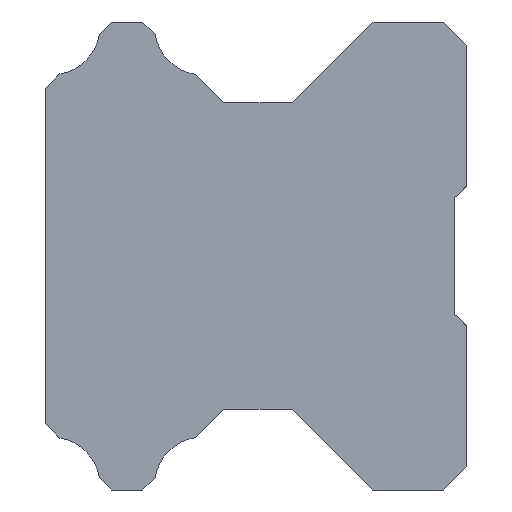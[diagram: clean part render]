
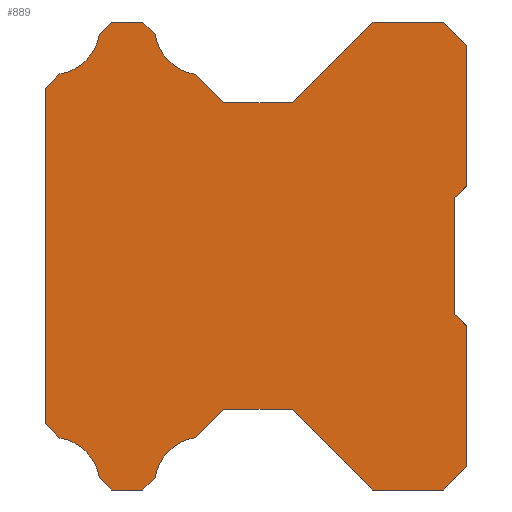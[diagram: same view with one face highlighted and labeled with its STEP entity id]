
A CAD part, left-side view. The second image highlights one B-rep face of the part: STEP entity #889.
In plain terms, the highlighted planar face has unit normal (-1, 0, 0).
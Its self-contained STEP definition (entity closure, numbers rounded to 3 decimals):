
#36=CIRCLE('',#953,2.06);
#38=CIRCLE('',#959,2.06);
#43=CIRCLE('',#968,2.06);
#45=CIRCLE('',#974,2.06);
#68=LINE('',#1313,#156);
#70=LINE('',#1319,#158);
#72=LINE('',#1324,#160);
#74=LINE('',#1328,#162);
#78=LINE('',#1337,#166);
#81=LINE('',#1343,#169);
#84=LINE('',#1349,#172);
#87=LINE('',#1355,#175);
#90=LINE('',#1361,#178);
#93=LINE('',#1367,#181);
#96=LINE('',#1373,#184);
#99=LINE('',#1379,#187);
#102=LINE('',#1385,#190);
#106=LINE('',#1397,#194);
#109=LINE('',#1403,#197);
#112=LINE('',#1409,#200);
#116=LINE('',#1421,#204);
#119=LINE('',#1433,#207);
#122=LINE('',#1439,#210);
#126=LINE('',#1451,#214);
#129=LINE('',#1457,#217);
#132=LINE('',#1463,#220);
#136=LINE('',#1475,#224);
#139=LINE('',#1481,#227);
#156=VECTOR('',#1060,1000.);
#158=VECTOR('',#1066,1000.);
#160=VECTOR('',#1072,1000.);
#162=VECTOR('',#1076,1000.);
#166=VECTOR('',#1082,1000.);
#169=VECTOR('',#1087,1000.);
#172=VECTOR('',#1092,1000.);
#175=VECTOR('',#1101,1000.);
#178=VECTOR('',#1106,1000.);
#181=VECTOR('',#1111,1000.);
#184=VECTOR('',#1116,1000.);
#187=VECTOR('',#1121,1000.);
#190=VECTOR('',#1126,1000.);
#194=VECTOR('',#1138,1000.);
#197=VECTOR('',#1143,1000.);
#200=VECTOR('',#1148,1000.);
#204=VECTOR('',#1160,1000.);
#207=VECTOR('',#1171,1000.);
#210=VECTOR('',#1176,1000.);
#214=VECTOR('',#1188,1000.);
#217=VECTOR('',#1193,1000.);
#220=VECTOR('',#1198,1000.);
#224=VECTOR('',#1210,1000.);
#227=VECTOR('',#1215,1000.);
#414=ORIENTED_EDGE('',*,*,#513,.F.);
#415=ORIENTED_EDGE('',*,*,#590,.F.);
#416=ORIENTED_EDGE('',*,*,#587,.F.);
#417=ORIENTED_EDGE('',*,*,#584,.T.);
#418=ORIENTED_EDGE('',*,*,#581,.F.);
#419=ORIENTED_EDGE('',*,*,#578,.F.);
#420=ORIENTED_EDGE('',*,*,#575,.F.);
#421=ORIENTED_EDGE('',*,*,#572,.T.);
#422=ORIENTED_EDGE('',*,*,#569,.F.);
#423=ORIENTED_EDGE('',*,*,#566,.F.);
#424=ORIENTED_EDGE('',*,*,#560,.F.);
#425=ORIENTED_EDGE('',*,*,#557,.T.);
#426=ORIENTED_EDGE('',*,*,#554,.F.);
#427=ORIENTED_EDGE('',*,*,#551,.F.);
#428=ORIENTED_EDGE('',*,*,#548,.F.);
#429=ORIENTED_EDGE('',*,*,#545,.T.);
#430=ORIENTED_EDGE('',*,*,#542,.F.);
#431=ORIENTED_EDGE('',*,*,#539,.F.);
#432=ORIENTED_EDGE('',*,*,#536,.F.);
#433=ORIENTED_EDGE('',*,*,#533,.F.);
#434=ORIENTED_EDGE('',*,*,#530,.F.);
#435=ORIENTED_EDGE('',*,*,#527,.F.);
#436=ORIENTED_EDGE('',*,*,#511,.F.);
#437=ORIENTED_EDGE('',*,*,#508,.F.);
#438=ORIENTED_EDGE('',*,*,#505,.F.);
#439=ORIENTED_EDGE('',*,*,#523,.F.);
#440=ORIENTED_EDGE('',*,*,#520,.F.);
#441=ORIENTED_EDGE('',*,*,#517,.F.);
#505=EDGE_CURVE('',#619,#620,#68,.T.);
#508=EDGE_CURVE('',#620,#622,#70,.T.);
#511=EDGE_CURVE('',#622,#623,#72,.T.);
#513=EDGE_CURVE('',#624,#625,#74,.T.);
#517=EDGE_CURVE('',#625,#628,#78,.T.);
#520=EDGE_CURVE('',#628,#630,#81,.T.);
#523=EDGE_CURVE('',#630,#619,#84,.T.);
#527=EDGE_CURVE('',#623,#632,#87,.T.);
#530=EDGE_CURVE('',#632,#634,#90,.T.);
#533=EDGE_CURVE('',#634,#636,#93,.T.);
#536=EDGE_CURVE('',#636,#638,#96,.T.);
#539=EDGE_CURVE('',#638,#640,#99,.T.);
#542=EDGE_CURVE('',#640,#642,#102,.T.);
#545=EDGE_CURVE('',#644,#642,#36,.T.);
#548=EDGE_CURVE('',#644,#646,#106,.T.);
#551=EDGE_CURVE('',#646,#648,#109,.T.);
#554=EDGE_CURVE('',#648,#650,#112,.T.);
#557=EDGE_CURVE('',#652,#650,#38,.T.);
#560=EDGE_CURVE('',#652,#654,#116,.T.);
#566=EDGE_CURVE('',#654,#659,#119,.T.);
#569=EDGE_CURVE('',#659,#661,#122,.T.);
#572=EDGE_CURVE('',#663,#661,#43,.T.);
#575=EDGE_CURVE('',#663,#665,#126,.T.);
#578=EDGE_CURVE('',#665,#667,#129,.T.);
#581=EDGE_CURVE('',#667,#669,#132,.T.);
#584=EDGE_CURVE('',#671,#669,#45,.T.);
#587=EDGE_CURVE('',#671,#673,#136,.T.);
#590=EDGE_CURVE('',#673,#624,#139,.T.);
#619=VERTEX_POINT('',#1312);
#620=VERTEX_POINT('',#1314);
#622=VERTEX_POINT('',#1320);
#623=VERTEX_POINT('',#1325);
#624=VERTEX_POINT('',#1329);
#625=VERTEX_POINT('',#1330);
#628=VERTEX_POINT('',#1338);
#630=VERTEX_POINT('',#1344);
#632=VERTEX_POINT('',#1356);
#634=VERTEX_POINT('',#1362);
#636=VERTEX_POINT('',#1368);
#638=VERTEX_POINT('',#1374);
#640=VERTEX_POINT('',#1380);
#642=VERTEX_POINT('',#1386);
#644=VERTEX_POINT('',#1392);
#646=VERTEX_POINT('',#1398);
#648=VERTEX_POINT('',#1404);
#650=VERTEX_POINT('',#1410);
#652=VERTEX_POINT('',#1416);
#654=VERTEX_POINT('',#1422);
#659=VERTEX_POINT('',#1434);
#661=VERTEX_POINT('',#1440);
#663=VERTEX_POINT('',#1446);
#665=VERTEX_POINT('',#1452);
#667=VERTEX_POINT('',#1458);
#669=VERTEX_POINT('',#1464);
#671=VERTEX_POINT('',#1470);
#673=VERTEX_POINT('',#1476);
#734=EDGE_LOOP('',(#414,#415,#416,#417,#418,#419,#420,#421,#422,#423,#424,
#425,#426,#427,#428,#429,#430,#431,#432,#433,#434,#435,#436,#437,#438,#439,
#440,#441));
#794=FACE_BOUND('',#734,.T.);
#847=PLANE('',#979);
#889=ADVANCED_FACE('',(#794),#847,.F.);
#953=AXIS2_PLACEMENT_3D('',#1391,#1131,#1132);
#959=AXIS2_PLACEMENT_3D('',#1415,#1153,#1154);
#968=AXIS2_PLACEMENT_3D('',#1445,#1181,#1182);
#974=AXIS2_PLACEMENT_3D('',#1469,#1203,#1204);
#979=AXIS2_PLACEMENT_3D('',#1484,#1219,#1220);
#1060=DIRECTION('',(0.,0.707,-0.707));
#1066=DIRECTION('',(0.,0.,-1.));
#1072=DIRECTION('',(0.,-0.707,-0.707));
#1076=DIRECTION('',(0.,-0.707,0.707));
#1082=DIRECTION('',(0.,-1.,0.));
#1087=DIRECTION('',(0.,-0.707,-0.707));
#1092=DIRECTION('',(0.,0.,-1.));
#1101=DIRECTION('',(0.,0.,-1.));
#1106=DIRECTION('',(0.,0.707,-0.707));
#1111=DIRECTION('',(0.,1.,0.));
#1116=DIRECTION('',(0.,0.707,0.707));
#1121=DIRECTION('',(0.,1.,0.));
#1126=DIRECTION('',(0.,0.707,-0.707));
#1131=DIRECTION('',(1.,0.,0.));
#1132=DIRECTION('',(0.,0.,-1.));
#1138=DIRECTION('',(0.,0.707,-0.707));
#1143=DIRECTION('',(0.,1.,0.));
#1148=DIRECTION('',(0.,0.707,0.707));
#1153=DIRECTION('',(1.,0.,0.));
#1154=DIRECTION('',(0.,0.,-1.));
#1160=DIRECTION('',(0.,0.707,0.707));
#1171=DIRECTION('',(0.,0.,1.));
#1176=DIRECTION('',(0.,-0.707,0.707));
#1181=DIRECTION('',(1.,0.,0.));
#1182=DIRECTION('',(0.,0.,-1.));
#1188=DIRECTION('',(0.,-0.707,0.707));
#1193=DIRECTION('',(0.,-1.,0.));
#1198=DIRECTION('',(0.,-0.707,-0.707));
#1203=DIRECTION('',(1.,0.,0.));
#1204=DIRECTION('',(0.,0.,-1.));
#1210=DIRECTION('',(0.,-0.707,-0.707));
#1215=DIRECTION('',(0.,-1.,0.));
#1219=DIRECTION('',(1.,0.,0.));
#1220=DIRECTION('',(0.,0.,-1.));
#1312=CARTESIAN_POINT('',(-20.,0.,3.));
#1313=CARTESIAN_POINT('',(-20.,0.,3.));
#1314=CARTESIAN_POINT('',(-20.,0.5,2.5));
#1319=CARTESIAN_POINT('',(-20.,0.5,2.5));
#1320=CARTESIAN_POINT('',(-20.,0.5,-2.5));
#1324=CARTESIAN_POINT('',(-20.,0.5,-2.5));
#1325=CARTESIAN_POINT('',(-20.,0.,-3.));
#1328=CARTESIAN_POINT('',(-20.,7.45,6.55));
#1329=CARTESIAN_POINT('',(-20.,7.45,6.55));
#1330=CARTESIAN_POINT('',(-20.,4.,10.));
#1337=CARTESIAN_POINT('',(-20.,4.,10.));
#1338=CARTESIAN_POINT('',(-20.,1.,10.));
#1343=CARTESIAN_POINT('',(-20.,1.,10.));
#1344=CARTESIAN_POINT('',(-20.,0.,9.));
#1349=CARTESIAN_POINT('',(-20.,0.,9.));
#1355=CARTESIAN_POINT('',(-20.,0.,-3.));
#1356=CARTESIAN_POINT('',(-20.,0.,-9.));
#1361=CARTESIAN_POINT('',(-20.,0.,-9.));
#1362=CARTESIAN_POINT('',(-20.,1.,-10.));
#1367=CARTESIAN_POINT('',(-20.,1.,-10.));
#1368=CARTESIAN_POINT('',(-20.,4.,-10.));
#1373=CARTESIAN_POINT('',(-20.,4.,-10.));
#1374=CARTESIAN_POINT('',(-20.,7.45,-6.55));
#1379=CARTESIAN_POINT('',(-20.,7.45,-6.55));
#1380=CARTESIAN_POINT('',(-20.,10.38,-6.55));
#1385=CARTESIAN_POINT('',(-20.,10.38,-6.55));
#1386=CARTESIAN_POINT('',(-20.,11.597,-7.767));
#1391=CARTESIAN_POINT('',(-20.,11.279,-9.802));
#1392=CARTESIAN_POINT('',(-20.,13.314,-9.484));
#1397=CARTESIAN_POINT('',(-20.,13.314,-9.484));
#1398=CARTESIAN_POINT('',(-20.,13.83,-10.));
#1403=CARTESIAN_POINT('',(-20.,13.83,-10.));
#1404=CARTESIAN_POINT('',(-20.,15.16,-10.));
#1409=CARTESIAN_POINT('',(-20.,15.16,-10.));
#1410=CARTESIAN_POINT('',(-20.,15.689,-9.471));
#1415=CARTESIAN_POINT('',(-20.,17.72,-9.815));
#1416=CARTESIAN_POINT('',(-20.,17.376,-7.784));
#1421=CARTESIAN_POINT('',(-20.,17.376,-7.784));
#1422=CARTESIAN_POINT('',(-20.,18.,-7.16));
#1433=CARTESIAN_POINT('',(-20.,18.,-7.16));
#1434=CARTESIAN_POINT('',(-20.,18.,7.16));
#1439=CARTESIAN_POINT('',(-20.,18.,7.16));
#1440=CARTESIAN_POINT('',(-20.,17.376,7.784));
#1445=CARTESIAN_POINT('',(-20.,17.72,9.815));
#1446=CARTESIAN_POINT('',(-20.,15.689,9.471));
#1451=CARTESIAN_POINT('',(-20.,15.689,9.471));
#1452=CARTESIAN_POINT('',(-20.,15.16,10.));
#1457=CARTESIAN_POINT('',(-20.,15.16,10.));
#1458=CARTESIAN_POINT('',(-20.,13.83,10.));
#1463=CARTESIAN_POINT('',(-20.,13.83,10.));
#1464=CARTESIAN_POINT('',(-20.,13.314,9.484));
#1469=CARTESIAN_POINT('',(-20.,11.279,9.802));
#1470=CARTESIAN_POINT('',(-20.,11.597,7.767));
#1475=CARTESIAN_POINT('',(-20.,11.597,7.767));
#1476=CARTESIAN_POINT('',(-20.,10.38,6.55));
#1481=CARTESIAN_POINT('',(-20.,10.38,6.55));
#1484=CARTESIAN_POINT('',(-20.,11.279,-9.802));
